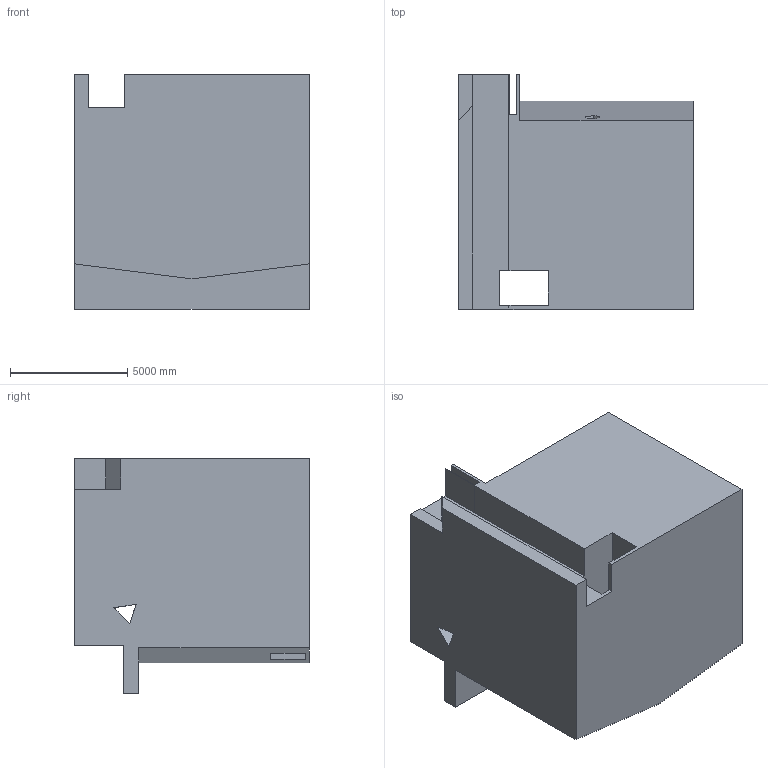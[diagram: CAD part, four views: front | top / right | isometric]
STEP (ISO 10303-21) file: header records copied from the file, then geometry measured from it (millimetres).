
FILE_DESCRIPTION (( 'STEP AP203' ), '1' );
FILE_NAME ('96.STEP', '2022-09-02T14:14:11', ( 'user' ), ( '' ), 'SwSTEP 2.0', 'SolidWorks 2021', '' );
FILE_SCHEMA (( 'CONFIG_CONTROL_DESIGN' ));
Length unit declared in the file: centimetre
Products named in the file (1): 96
Bounding box: 10000 x 10000 x 10000 mm (x, y, z)
Volume: 685464635523.7 mm3; surface area: 682668928.9 mm2
Topology: 1 solids, 1 shells, 49 faces, 147 edges, 98 vertices
Faces by surface type: plane 44, cylinder 5
Entity records: 1725 total; most frequent: CARTESIAN_POINT 310, ORIENTED_EDGE 294, DIRECTION 253, EDGE_CURVE 147, LINE 131, VECTOR 131, VERTEX_POINT 98, AXIS2_PLACEMENT_3D 61
